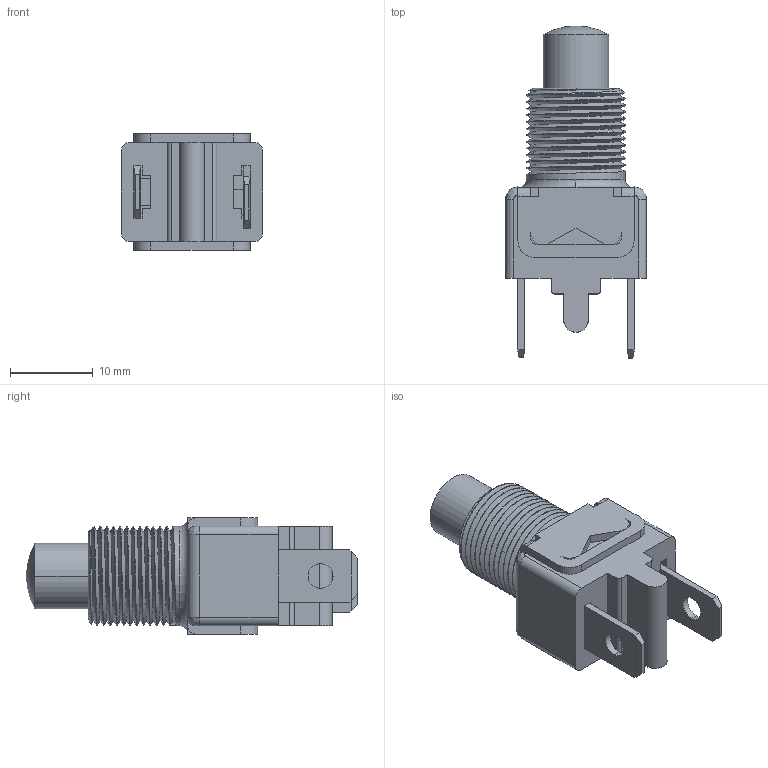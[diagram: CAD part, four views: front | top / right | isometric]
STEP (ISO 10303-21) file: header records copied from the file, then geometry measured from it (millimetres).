
FILE_DESCRIPTION((''),'2;1');
FILE_NAME('1203A-2_SW0002','2009-03-31T',('jlgachon'),(''),'PRO/ENGINEER BY PARAMETRIC TECHNOLOGY CORPORATION, 2007030','PRO/ENGINEER BY PARAMETRIC TECHNOLOGY CORPORATION, 2007030','');
FILE_SCHEMA(('CONFIG_CONTROL_DESIGN'));
Length unit declared in the file: millimetre
Products named in the file (1): 1203A-2_SW0002
Bounding box: 17 x 40 x 14 mm (x, y, z)
Volume: 3499.5 mm3; surface area: 3189 mm2
Topology: 1 solids, 1 shells, 229 faces, 643 edges, 412 vertices
Faces by surface type: plane 132, cylinder 54, bspline 36, torus 5, sphere 2
Entity records: 13132 total; most frequent: CARTESIAN_POINT 7403, ORIENTED_EDGE 1282, DIRECTION 1042, EDGE_CURVE 641, VERTEX_POINT 416, VECTOR 408, LINE 408, AXIS2_PLACEMENT_3D 317
